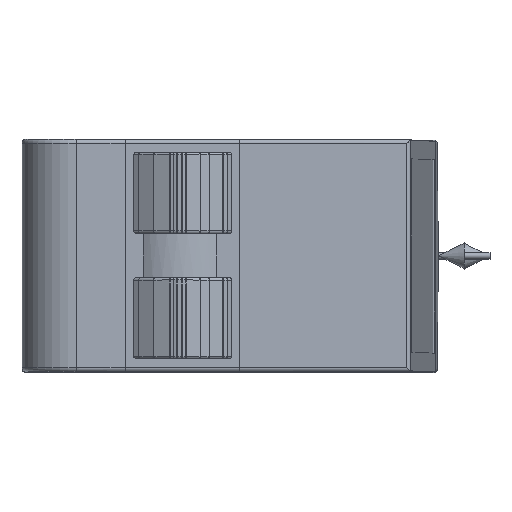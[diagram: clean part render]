
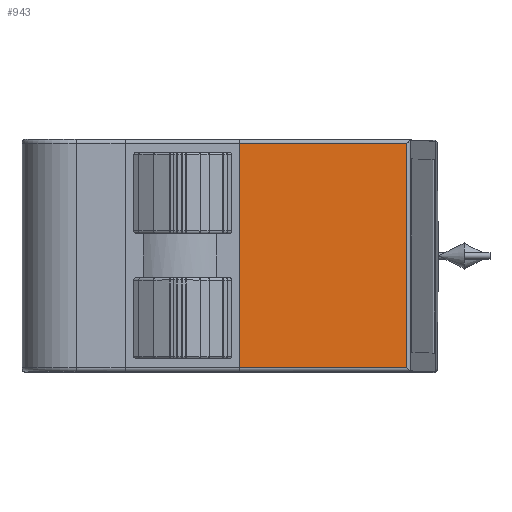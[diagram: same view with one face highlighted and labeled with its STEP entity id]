
A CAD part, top view. The second image highlights one B-rep face of the part: STEP entity #943.
In plain terms, the highlighted planar face has unit normal (0.052, 0, 0.999).
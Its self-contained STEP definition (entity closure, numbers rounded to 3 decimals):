
#943 = ADVANCED_FACE( '', ( #1961 ), #1962, .T. );
#1961 = FACE_OUTER_BOUND( '', #4603, .T. );
#1962 = PLANE( '', #4604 );
#4603 = EDGE_LOOP( '', ( #7482, #7483, #7484, #7485 ) );
#4604 = AXIS2_PLACEMENT_3D( '', #7486, #7487, #7488 );
#7482 = ORIENTED_EDGE( '', *, *, #8311, .T. );
#7483 = ORIENTED_EDGE( '', *, *, #8576, .T. );
#7484 = ORIENTED_EDGE( '', *, *, #8640, .T. );
#7485 = ORIENTED_EDGE( '', *, *, #9037, .F. );
#7486 = CARTESIAN_POINT( '', ( 0.209, -9., 40.995 ) );
#7487 = DIRECTION( '', ( 0.052, 0., 0.999 ) );
#7488 = DIRECTION( '', ( 0.999, 0., -0.052 ) );
#8311 = EDGE_CURVE( '', #9700, #9698, #9701, .T. );
#8576 = EDGE_CURVE( '', #9698, #10103, #10105, .T. );
#8640 = EDGE_CURVE( '', #10103, #10196, #10197, .F. );
#9037 = EDGE_CURVE( '', #9700, #10196, #10685, .T. );
#9698 = VERTEX_POINT( '', #11907 );
#9700 = VERTEX_POINT( '', #11909 );
#9701 = LINE( '', #11910, #11911 );
#10103 = VERTEX_POINT( '', #12759 );
#10105 = LINE( '', #12761, #12762 );
#10196 = VERTEX_POINT( '', #12926 );
#10197 = LINE( '', #12927, #12928 );
#10685 = LINE( '', #13948, #13949 );
#11907 = CARTESIAN_POINT( '', ( 25.81, -8.7, 39.653 ) );
#11909 = CARTESIAN_POINT( '', ( 12.85, -8.7, 40.332 ) );
#11910 = CARTESIAN_POINT( '', ( 0.209, -8.7, 40.995 ) );
#11911 = VECTOR( '', #14611, 1000. );
#12759 = CARTESIAN_POINT( '', ( 25.81, 8.7, 39.653 ) );
#12761 = CARTESIAN_POINT( '', ( 25.81, -9., 39.653 ) );
#12762 = VECTOR( '', #14967, 1000. );
#12926 = CARTESIAN_POINT( '', ( 12.85, 8.7, 40.332 ) );
#12927 = CARTESIAN_POINT( '', ( 0.209, 8.7, 40.995 ) );
#12928 = VECTOR( '', #15055, 1000. );
#13948 = CARTESIAN_POINT( '', ( 12.85, -9., 40.332 ) );
#13949 = VECTOR( '', #15535, 1000. );
#14611 = DIRECTION( '', ( 0.999, 0., -0.052 ) );
#14967 = DIRECTION( '', ( 0., 1., 0. ) );
#15055 = DIRECTION( '', ( 0.999, 0., -0.052 ) );
#15535 = DIRECTION( '', ( 0., 1., 0. ) );
